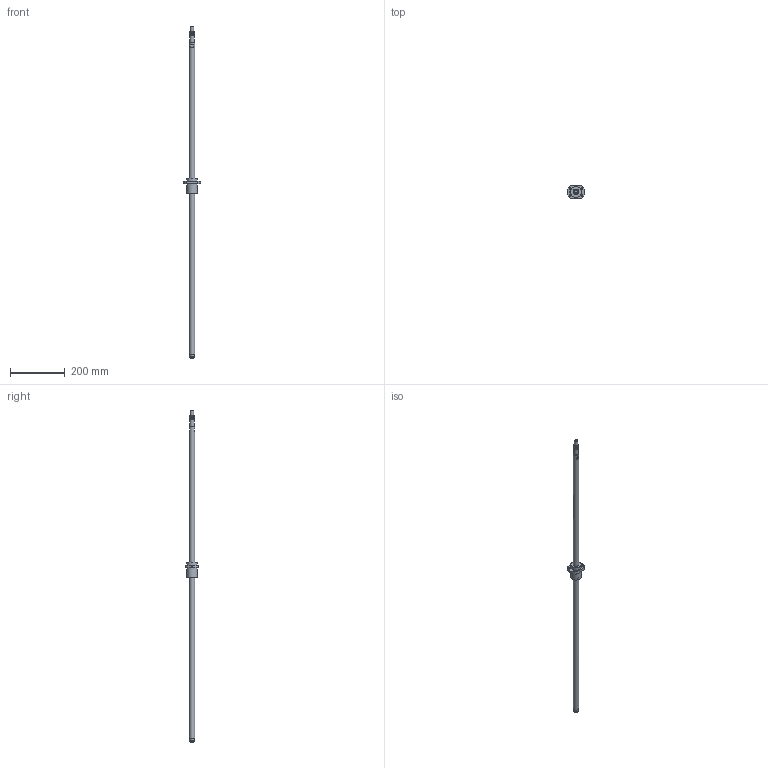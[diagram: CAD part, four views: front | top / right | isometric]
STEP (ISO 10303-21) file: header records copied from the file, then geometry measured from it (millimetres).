
FILE_DESCRIPTION(/* description */ (''),/* implementation_level */ '2;1');
FILE_NAME(/* name */ 'BSG252_asm1.stp',/* time_stamp */ '2017-01-14T09:12:03+08:00',/* author */ (''),/* organization */ (''),/* preprocessor_version */ 'ST-DEVELOPER v15',/* originating_system */ 'SIEMENS PLM Software NX 8.5',/* authorisation */ '');
FILE_SCHEMA (('AUTOMOTIVE_DESIGN { 1 0 10303 214 3 1 1 1 }'));
Length unit declared in the file: millimetre
Products named in the file (3): 01; BSG252; BSG252_asm1
Assembly tree (2 placements, depth 2):
  BSG252_asm1
    BSG252
    01
Bounding box: 62 x 46 x 1210 mm (x, y, z)
Volume: 60188.9 mm3; surface area: 92335.7 mm2
Topology: 1 solids, 2 shells, 82 faces, 215 edges, 146 vertices
Faces by surface type: plane 41, cylinder 37, bspline 2, cone 2
Full cylindrical faces by diameter (mm): 4.5 x4, 5 x1, 5.5 x4, 6 x1, 12 x1, 14.3 x1, 15 x17, 20 x2, 39 x2
Entity records: 5011 total; most frequent: CARTESIAN_POINT 3444, DIRECTION 318, ORIENTED_EDGE 268, EDGE_CURVE 134, AXIS2_PLACEMENT_3D 129, EDGE_LOOP 110, VERTEX_POINT 100, FACE_BOUND 73
